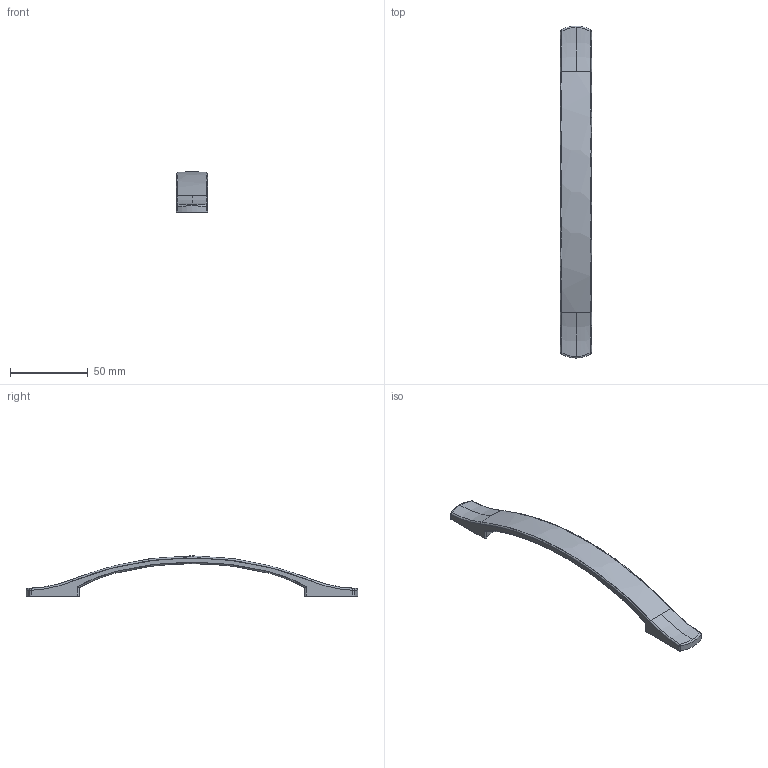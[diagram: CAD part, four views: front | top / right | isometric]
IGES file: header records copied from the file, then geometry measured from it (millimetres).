
Start section: C
Global section: file name: 8014-214.igs; native system: By Siemens PLM Incorporated; preprocessor: XPlus GENERIC/IGES 16.0.42; author: Author; organization: Title; date: 20231128.143008; units: millimetre
Bounding box: 20 x 214 x 25.97 mm (x, y, z)
Surface area: 12534.3 mm2 (no closed solid volume)
Topology: 0 solids, 0 shells, 71 faces, 362 edges, 362 vertices
Faces by surface type: bspline 71
